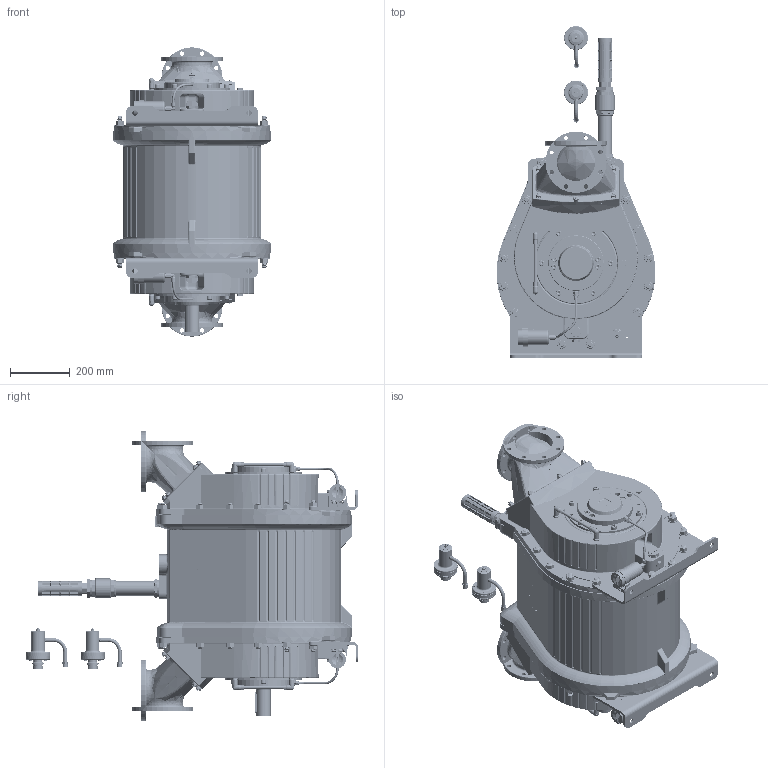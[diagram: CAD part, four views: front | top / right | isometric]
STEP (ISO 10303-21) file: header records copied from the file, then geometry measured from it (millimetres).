
FILE_DESCRIPTION(/* description */ (''),/* implementation_level */ '2;1');
FILE_NAME(/* name */ '1700160.stp',/* time_stamp */ '2026-04-22T14:31:59+02:00',/* author */ ('JJ'),/* organization */ (''),/* preprocessor_version */ 'ST-DEVELOPER v20',/* originating_system */ 'Autodesk Inventor 2025',/* authorisation */ '');
FILE_SCHEMA (('AUTOMOTIVE_DESIGN { 1 0 10303 214 3 1 1 }'));
Products named in the file (59): 1700160; 1659021; 1659049; 910100170; 910200008; 1634823; 1634808; 922000270; 910100021; 910100161; 944600276; 1634826; 1634811; 922000266; 1659046; 910300074; 1659095; 1634824; 1634809; 922000269; 925000587; 925000590; 944600356; 944600355; 1659017; 1659069; 1634666; 1634667; 1634668; 1634130; 1634131; 1634670; 1634134; 910200105; 910100125; 910300428; 921000047; 922100045; 922100339; 1634669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
Assembly tree (175 placements, depth 3):
  1700160
    1659017  x4
    1659069  x4
    1659021  x2
    910100021  x34
    910100161  x34
    910100170  x12
    910200008  x12
    1634823  x2
      1634808
      922000270
    1634826  x2
      1634811
      922000266
    1659049  x2
    944600276  x4
    1659046  x2
    910300074  x2
    1634824  x2
      1634809
      922000269
    1659095
    925000587
    925000590
    944600356
    944600355
    1634666  x2
      1634667
      1634668
      1634130
      1634131
      1634670
      1634134
      910200105
      910100125
      910300428
      921000047
      922100045
      922100339
      1634669
      925000651
      910300012
    925000862  x2
    927000134-TM2500  x2
    910300487  x2
    910100191  x2
    944600240  x2
    915000232  x2
    915000225  x2
      915000225-part1
      915000225-part2
    915000217
    1634773  x2
    915000215  x2
    915000217_1
    1659078_Simplify_body
    1636087
      1636088
      922000307
Bounding box: 528.82 x 1107.26 x 965 mm (x, y, z)
Volume: 150107413.4 mm3; surface area: 5809327.4 mm2
Topology: 193 solids, 195 shells, 10291 faces, 26667 edges, 17205 vertices
Faces by surface type: plane 3872, bspline 2787, cylinder 2204, cone 888, torus 390, sphere 150
Full cylindrical faces by diameter (mm): 1.5 x16, 3.2 x4, 3.3 x4, 3.5 x2, 4 x2, 4.134 x4, 4.917 x2, 4.92 x10, 5 x2, 5.3 x2, 6 x46, 6.1 x2, 6.4 x2, 6.5 x8, 8 x28, 8.376 x14, 8.4 x2, 8.5 x2, 8.57 x2, 9.2 x2, 9.7 x2, 9.8 x4, 10 x188, 10.106 x9, 10.5 x12, 11 x62, 11.18 x2, 11.3 x4, 11.445 x2, 12 x29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
Entity records: 443507 total; most frequent: CARTESIAN_POINT 299115, ORIENTED_EDGE 31748, DIRECTION 23672, EDGE_CURVE 15874, VERTEX_POINT 10238, AXIS2_PLACEMENT_3D 8473, EDGE_LOOP 6910, LINE 6726
